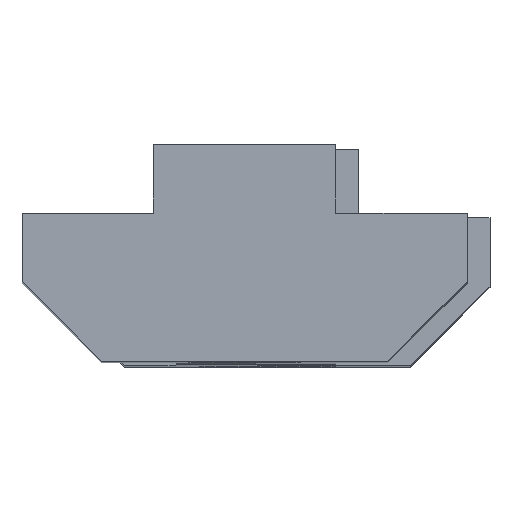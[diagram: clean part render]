
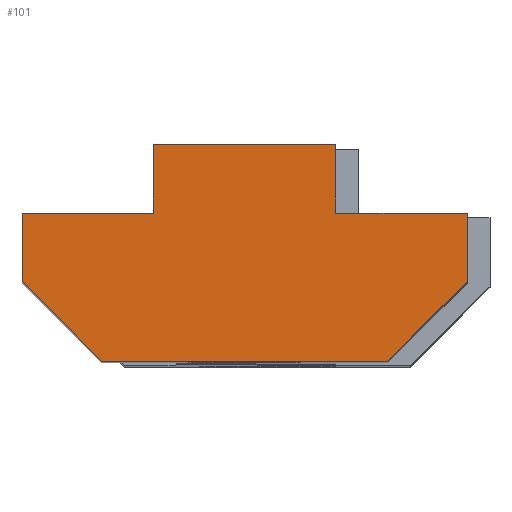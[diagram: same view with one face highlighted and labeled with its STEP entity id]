
A CAD part, top view. The second image highlights one B-rep face of the part: STEP entity #101.
In plain terms, the highlighted planar face has unit normal (0, 0, 1) as drawn and (0, 0, -1) by its records, which use the part's own axes.
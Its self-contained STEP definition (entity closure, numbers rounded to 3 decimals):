
#3 = CARTESIAN_POINT ( 'NONE',  ( -24.565, -2.714, 0. ) ) ;
#29 = EDGE_CURVE ( 'NONE', #192, #788, #1165, .T. ) ;
#58 = EDGE_CURVE ( 'NONE', #299, #255, #1120, .T. ) ;
#60 = DIRECTION ( 'NONE',  ( 0., -1., 0. ) ) ;
#61 = EDGE_CURVE ( 'NONE', #1490, #489, #576, .T. ) ;
#71 = VECTOR ( 'NONE', #60, 1000. ) ;
#101 = ADVANCED_FACE ( 'NONE', ( #272 ), #992, .T. ) ;
#116 = EDGE_CURVE ( 'NONE', #1121, #299, #359, .T. ) ;
#151 = ORIENTED_EDGE ( 'NONE', *, *, #259, .F. ) ;
#180 = DIRECTION ( 'NONE',  ( -1., 0., 0. ) ) ;
#183 = EDGE_CURVE ( 'NONE', #489, #831, #1035, .T. ) ;
#192 = VERTEX_POINT ( 'NONE', #329 ) ;
#232 = ORIENTED_EDGE ( 'NONE', *, *, #61, .F. ) ;
#248 = CARTESIAN_POINT ( 'NONE',  ( -14.301, 6.771, 0. ) ) ;
#252 = VECTOR ( 'NONE', #875, 1000. ) ;
#255 = VERTEX_POINT ( 'NONE', #1038 ) ;
#258 = EDGE_CURVE ( 'NONE', #1148, #893, #1104, .T. ) ;
#259 = EDGE_CURVE ( 'NONE', #255, #1490, #1213, .T. ) ;
#267 = VECTOR ( 'NONE', #582, 1000. ) ;
#272 = FACE_OUTER_BOUND ( 'NONE', #1732, .T. ) ;
#291 = EDGE_CURVE ( 'NONE', #788, #1148, #766, .T. ) ;
#299 = VERTEX_POINT ( 'NONE', #1022 ) ;
#329 = CARTESIAN_POINT ( 'NONE',  ( -22.301, 3.771, 0. ) ) ;
#359 = LINE ( 'NONE', #740, #1256 ) ;
#366 = DIRECTION ( 'NONE',  ( 0.707, -0.707, 0. ) ) ;
#374 = VECTOR ( 'NONE', #715, 1000. ) ;
#435 = CARTESIAN_POINT ( 'NONE',  ( -12.037, -2.714, 0. ) ) ;
#449 = ORIENTED_EDGE ( 'NONE', *, *, #183, .F. ) ;
#455 = DIRECTION ( 'NONE',  ( -1., 0., 0. ) ) ;
#466 = CARTESIAN_POINT ( 'NONE',  ( -22.301, 6.771, 0. ) ) ;
#468 = CARTESIAN_POINT ( 'NONE',  ( -14.301, 6.771, 0. ) ) ;
#489 = VERTEX_POINT ( 'NONE', #248 ) ;
#536 = CARTESIAN_POINT ( 'NONE',  ( -14.301, 3.771, 0. ) ) ;
#576 = LINE ( 'NONE', #468, #252 ) ;
#582 = DIRECTION ( 'NONE',  ( 0., -1., 0. ) ) ;
#583 = CARTESIAN_POINT ( 'NONE',  ( -8.551, 3.771, 0. ) ) ;
#599 = DIRECTION ( 'NONE',  ( -1., 0., 0. ) ) ;
#633 = LINE ( 'NONE', #1255, #267 ) ;
#715 = DIRECTION ( 'NONE',  ( 1., 0., 0. ) ) ;
#721 = CARTESIAN_POINT ( 'NONE',  ( -28.051, 0.771, 0. ) ) ;
#731 = ORIENTED_EDGE ( 'NONE', *, *, #116, .F. ) ;
#740 = CARTESIAN_POINT ( 'NONE',  ( -8.551, 0.771, 0. ) ) ;
#745 = DIRECTION ( 'NONE',  ( 0., 1., 0. ) ) ;
#749 = VECTOR ( 'NONE', #903, 1000. ) ;
#765 = ORIENTED_EDGE ( 'NONE', *, *, #29, .F. ) ;
#766 = LINE ( 'NONE', #1312, #71 ) ;
#785 = VECTOR ( 'NONE', #745, 1000. ) ;
#788 = VERTEX_POINT ( 'NONE', #1110 ) ;
#827 = CARTESIAN_POINT ( 'NONE',  ( -22.301, 6.771, 0. ) ) ;
#831 = VERTEX_POINT ( 'NONE', #827 ) ;
#872 = ORIENTED_EDGE ( 'NONE', *, *, #258, .F. ) ;
#875 = DIRECTION ( 'NONE',  ( 0., 1., 0. ) ) ;
#893 = VERTEX_POINT ( 'NONE', #3 ) ;
#903 = DIRECTION ( 'NONE',  ( -1., 0., 0. ) ) ;
#992 = PLANE ( 'NONE',  #1326 ) ;
#1006 = CARTESIAN_POINT ( 'NONE',  ( -22.301, 3.771, 0. ) ) ;
#1022 = CARTESIAN_POINT ( 'NONE',  ( -8.551, 0.771, 0. ) ) ;
#1035 = LINE ( 'NONE', #466, #1469 ) ;
#1038 = CARTESIAN_POINT ( 'NONE',  ( -8.551, 3.771, 0. ) ) ;
#1043 = EDGE_CURVE ( 'NONE', #831, #192, #633, .T. ) ;
#1104 = LINE ( 'NONE', #1570, #1750 ) ;
#1110 = CARTESIAN_POINT ( 'NONE',  ( -28.051, 3.771, 0. ) ) ;
#1116 = CARTESIAN_POINT ( 'NONE',  ( -12.037, -2.714, 0. ) ) ;
#1120 = LINE ( 'NONE', #583, #785 ) ;
#1121 = VERTEX_POINT ( 'NONE', #1116 ) ;
#1148 = VERTEX_POINT ( 'NONE', #721 ) ;
#1165 = LINE ( 'NONE', #1006, #1293 ) ;
#1186 = ORIENTED_EDGE ( 'NONE', *, *, #58, .F. ) ;
#1213 = LINE ( 'NONE', #1434, #749 ) ;
#1224 = LINE ( 'NONE', #435, #374 ) ;
#1255 = CARTESIAN_POINT ( 'NONE',  ( -22.301, 6.771, 0. ) ) ;
#1256 = VECTOR ( 'NONE', #1281, 1000. ) ;
#1274 = ORIENTED_EDGE ( 'NONE', *, *, #1043, .F. ) ;
#1281 = DIRECTION ( 'NONE',  ( 0.707, 0.707, 0. ) ) ;
#1293 = VECTOR ( 'NONE', #599, 1000. ) ;
#1312 = CARTESIAN_POINT ( 'NONE',  ( -28.051, 3.771, 0. ) ) ;
#1326 = AXIS2_PLACEMENT_3D ( 'NONE', #1555, #1429, #455 ) ;
#1429 = DIRECTION ( 'NONE',  ( 0., 0., -1. ) ) ;
#1434 = CARTESIAN_POINT ( 'NONE',  ( -14.301, 3.771, 0. ) ) ;
#1469 = VECTOR ( 'NONE', #180, 1000. ) ;
#1472 = ORIENTED_EDGE ( 'NONE', *, *, #1659, .F. ) ;
#1489 = ORIENTED_EDGE ( 'NONE', *, *, #291, .F. ) ;
#1490 = VERTEX_POINT ( 'NONE', #536 ) ;
#1555 = CARTESIAN_POINT ( 'NONE',  ( 0., 0., 0. ) ) ;
#1570 = CARTESIAN_POINT ( 'NONE',  ( -28.051, 0.771, 0. ) ) ;
#1659 = EDGE_CURVE ( 'NONE', #893, #1121, #1224, .T. ) ;
#1732 = EDGE_LOOP ( 'NONE', ( #1274, #449, #232, #151, #1186, #731, #1472, #872, #1489, #765 ) ) ;
#1750 = VECTOR ( 'NONE', #366, 1000. ) ;
